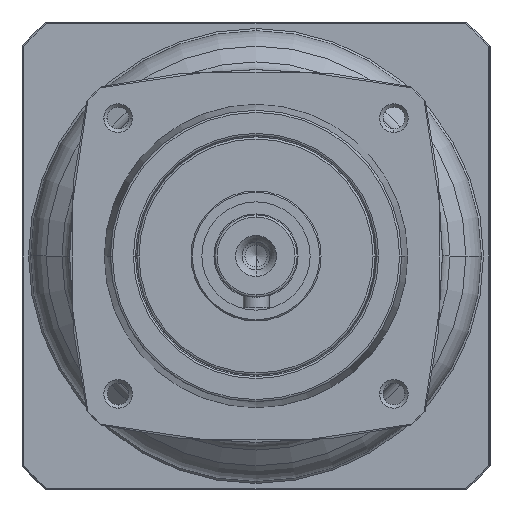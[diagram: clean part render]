
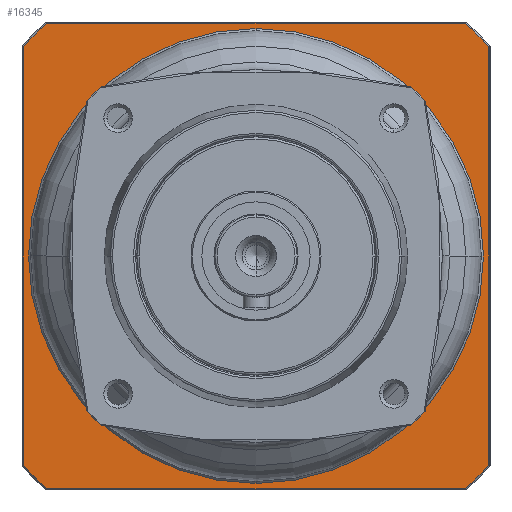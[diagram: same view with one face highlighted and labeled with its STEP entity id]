
A CAD part, left-side view. The second image highlights one B-rep face of the part: STEP entity #16345.
In plain terms, the highlighted planar face has unit normal (-1, 0, 0) as drawn and (0, 0, -1) by its records, which use the part's own axes.
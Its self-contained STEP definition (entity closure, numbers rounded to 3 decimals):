
#15239=CARTESIAN_POINT('',(0.,0.,
2.5));
#15240=DIRECTION('',(0.,0.,-1.));
#15241=DIRECTION('',(0.,-1.,0.));
#15242=AXIS2_PLACEMENT_3D('',#15239,#15240,#15241);
#15244=CARTESIAN_POINT('',(0.,0.,2.5));
#15245=DIRECTION('',(0.,0.,-1.));
#15246=DIRECTION('',(0.,1.,0.));
#15247=AXIS2_PLACEMENT_3D('',#15244,#15245,#15246);
#15249=CARTESIAN_POINT('',(0.,0.,2.5));
#15250=DIRECTION('',(0.,0.,1.));
#15251=DIRECTION('',(-0.744,-0.668,0.));
#15252=AXIS2_PLACEMENT_3D('',#15249,#15250,#15251);
#15254=DIRECTION('',(1.,0.,0.));
#15255=VECTOR('',#15254,96.523);
#15256=CARTESIAN_POINT('',(-48.261,-53.7,
2.5));
#15257=LINE('',#15256,#15255);
#15258=CARTESIAN_POINT('',(0.,0.,2.5));
#15259=DIRECTION('',(0.,0.,1.));
#15260=DIRECTION('',(0.668,-0.744,0.));
#15261=AXIS2_PLACEMENT_3D('',#15258,#15259,#15260);
#15263=DIRECTION('',(0.,1.,0.));
#15264=VECTOR('',#15263,96.523);
#15265=CARTESIAN_POINT('',(53.7,-48.261,
2.5));
#15266=LINE('',#15265,#15264);
#15267=CARTESIAN_POINT('',(0.,0.,2.5));
#15268=DIRECTION('',(0.,0.,1.));
#15269=DIRECTION('',(0.744,0.668,0.));
#15270=AXIS2_PLACEMENT_3D('',#15267,#15268,#15269);
#15272=DIRECTION('',(-1.,0.,0.));
#15273=VECTOR('',#15272,96.523);
#15274=CARTESIAN_POINT('',(48.261,53.7,2.5));
#15275=LINE('',#15274,#15273);
#15276=CARTESIAN_POINT('',(0.,0.,2.5));
#15277=DIRECTION('',(0.,0.,1.));
#15278=DIRECTION('',(-0.668,0.744,0.));
#15279=AXIS2_PLACEMENT_3D('',#15276,#15277,#15278);
#15281=DIRECTION('',(0.,-1.,0.));
#15282=VECTOR('',#15281,96.523);
#15283=CARTESIAN_POINT('',(-53.7,48.261,
2.5));
#15284=LINE('',#15283,#15282);
#16002=CARTESIAN_POINT('',(0.,-52.5,2.5));
#16003=CARTESIAN_POINT('',(0.,52.5,
2.5));
#16004=VERTEX_POINT('',#16002);
#16005=VERTEX_POINT('',#16003);
#16074=CARTESIAN_POINT('',(-53.7,-48.261,2.5));
#16075=CARTESIAN_POINT('',(-48.261,-53.7,2.5));
#16076=VERTEX_POINT('',#16074);
#16077=VERTEX_POINT('',#16075);
#16082=CARTESIAN_POINT('',(48.261,-53.7,
2.5));
#16083=VERTEX_POINT('',#16082);
#16086=CARTESIAN_POINT('',(53.7,-48.261,2.5));
#16087=VERTEX_POINT('',#16086);
#16090=CARTESIAN_POINT('',(53.7,48.261,2.5));
#16091=VERTEX_POINT('',#16090);
#16094=CARTESIAN_POINT('',(48.261,53.7,2.5));
#16095=VERTEX_POINT('',#16094);
#16098=CARTESIAN_POINT('',(-48.261,53.7,
2.5));
#16099=VERTEX_POINT('',#16098);
#16104=CARTESIAN_POINT('',(-53.7,48.261,2.5));
#16105=VERTEX_POINT('',#16104);
#16317=CARTESIAN_POINT('',(0.,0.,2.5));
#16318=DIRECTION('',(0.,0.,1.));
#16319=DIRECTION('',(0.,1.,0.));
#16320=AXIS2_PLACEMENT_3D('',#16317,#16318,#16319);
#16321=PLANE('',#16320);
#16323=ORIENTED_EDGE('',*,*,#16322,.T.);
#16325=ORIENTED_EDGE('',*,*,#16324,.T.);
#16327=ORIENTED_EDGE('',*,*,#16326,.T.);
#16329=ORIENTED_EDGE('',*,*,#16328,.T.);
#16331=ORIENTED_EDGE('',*,*,#16330,.T.);
#16333=ORIENTED_EDGE('',*,*,#16332,.T.);
#16335=ORIENTED_EDGE('',*,*,#16334,.T.);
#16337=ORIENTED_EDGE('',*,*,#16336,.T.);
#16338=EDGE_LOOP('',(#16323,#16325,#16327,#16329,#16331,#16333,#16335,#16337));
#16339=FACE_OUTER_BOUND('',#16338,.F.);
#16341=ORIENTED_EDGE('',*,*,#16340,.T.);
#16342=ORIENTED_EDGE('',*,*,#16307,.T.);
#16343=EDGE_LOOP('',(#16341,#16342));
#16344=FACE_BOUND('',#16343,.F.);
#16345=ADVANCED_FACE('',(#16339,#16344),#16321,.F.);
#15243=CIRCLE('',#15242,52.5);
#15248=CIRCLE('',#15247,52.5);
#15253=CIRCLE('',#15252,72.2);
#15262=CIRCLE('',#15261,72.2);
#15271=CIRCLE('',#15270,72.2);
#15280=CIRCLE('',#15279,72.2);
#16307=EDGE_CURVE('',#16005,#16004,#15248,.T.);
#16322=EDGE_CURVE('',#16076,#16077,#15253,.T.);
#16324=EDGE_CURVE('',#16077,#16083,#15257,.T.);
#16326=EDGE_CURVE('',#16083,#16087,#15262,.T.);
#16328=EDGE_CURVE('',#16087,#16091,#15266,.T.);
#16330=EDGE_CURVE('',#16091,#16095,#15271,.T.);
#16332=EDGE_CURVE('',#16095,#16099,#15275,.T.);
#16334=EDGE_CURVE('',#16099,#16105,#15280,.T.);
#16336=EDGE_CURVE('',#16105,#16076,#15284,.T.);
#16340=EDGE_CURVE('',#16004,#16005,#15243,.T.);
